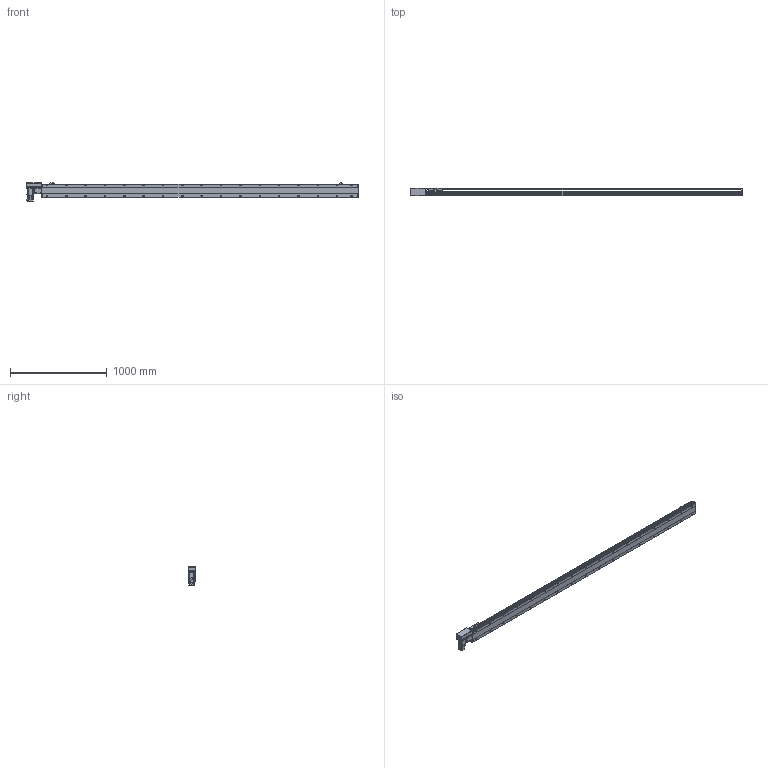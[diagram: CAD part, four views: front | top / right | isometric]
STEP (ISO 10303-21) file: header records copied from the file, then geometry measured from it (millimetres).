
FILE_DESCRIPTION( ( 'STEP AP214' ), '1' );
FILE_NAME( 'x:/temp/worker_27/temp/exporttempdir_6708_390_3xplx/format_0/PBS140-P40-S3000-R-T40-C1-N(0).stp', '2022-06-06T01:32:15', ( 'License CC BY-ND 4.0' ), ( 'CADENAS' ), ' ', 'PARTsolutions', ' ' );
FILE_SCHEMA( ( 'AUTOMOTIVE_DESIGN { 1 0 10303 214 1 1 1 1 }' ) );
Length unit declared in the file: millimetre
Products named in the file (7): PBS140-P40-S3000-R-T40-C1-N(0); _PBS140-S3000()_body; _PBS140T-R_motors; _T40-p1; _PBS140_sliser; _PBS140_plant; _PBS140_sensor
Assembly tree (8 placements, depth 2):
  PBS140-P40-S3000-R-T40-C1-N(0)
    _PBS140-S3000()_body
    _PBS140T-R_motors
    _T40-p1
    _PBS140_sliser
    _PBS140_plant
    _PBS140_sensor  x3
Bounding box: 3433 x 80.5 x 189.7 mm (x, y, z)
Volume: 14896735.7 mm3; surface area: 2526664.7 mm2
Topology: 8 solids, 8 shells, 1219 faces, 3196 edges, 2087 vertices
Faces by surface type: plane 746, cylinder 403, cone 60, sphere 8, torus 2
Full cylindrical faces by diameter (mm): 3.242 x4, 4 x2, 4.134 x4, 4.4 x8, 4.5 x2, 4.8 x4, 4.917 x42, 5.5 x7, 6 x2, 7 x36, 7.5 x8, 8 x12, 8.5 x4, 10.5 x34, 14 x1, 30 x2, 50 x2
Entity records: 45067 total; most frequent: CARTESIAN_POINT 7763, DIRECTION 5827, ORIENTED_EDGE 5452, EDGE_CURVE 2726, AXIS2_PLACEMENT_3D 2077, VERTEX_POINT 1917, LINE 1673, VECTOR 1673
